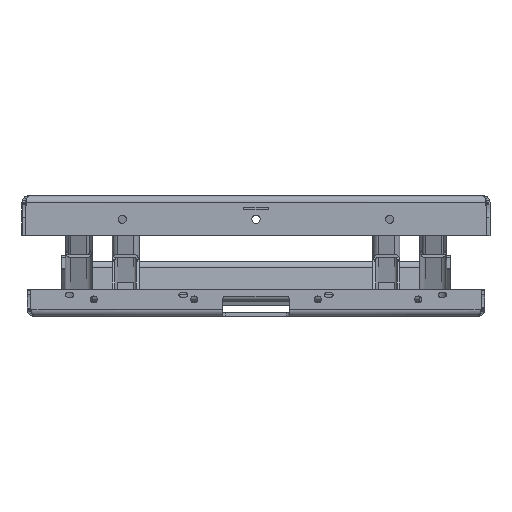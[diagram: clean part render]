
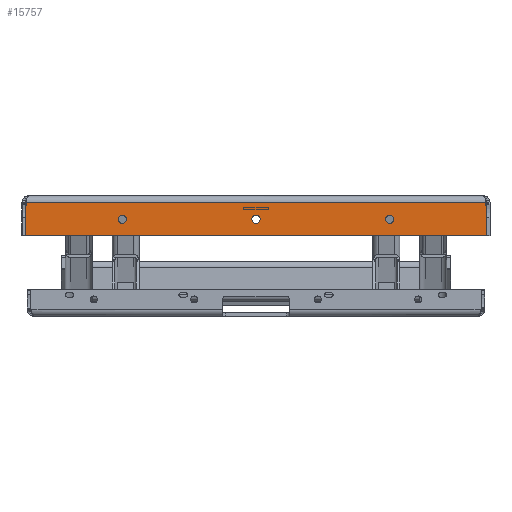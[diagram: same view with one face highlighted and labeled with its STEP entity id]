
A CAD part, left-side view. The second image highlights one B-rep face of the part: STEP entity #15757.
In plain terms, the highlighted planar face has unit normal (-1, 0, 0) as drawn and (1, 0, 0) by its records, which use the part's own axes.
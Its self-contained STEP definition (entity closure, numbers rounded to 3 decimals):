
#944=FACE_BOUND('',#3364,.T.);
#945=FACE_BOUND('',#3365,.T.);
#946=FACE_BOUND('',#3366,.T.);
#1500=CIRCLE('',#17190,6.25);
#1504=CIRCLE('',#17196,6.25);
#1508=CIRCLE('',#17202,6.25);
#1557=CIRCLE('',#17297,1.);
#1559=CIRCLE('',#17301,1.);
#1560=CIRCLE('',#17302,1.);
#1561=CIRCLE('',#17303,1.);
#2315=FACE_OUTER_BOUND('',#3363,.T.);
#3363=EDGE_LOOP('',(#13880,#13881,#13882,#13883,#13884,#13885,#13886,#13887,
#13888,#13889));
#3364=EDGE_LOOP('',(#13890));
#3365=EDGE_LOOP('',(#13891));
#3366=EDGE_LOOP('',(#13892));
#4759=LINE('',#26754,#6190);
#4762=LINE('',#26760,#6193);
#4763=LINE('',#26764,#6194);
#4764=LINE('',#26766,#6195);
#4765=LINE('',#26768,#6196);
#4766=LINE('',#26772,#6197);
#6190=VECTOR('',#21293,10.);
#6193=VECTOR('',#21298,10.);
#6194=VECTOR('',#21301,10.);
#6195=VECTOR('',#21302,10.);
#6196=VECTOR('',#21303,10.);
#6197=VECTOR('',#21306,10.);
#7581=VERTEX_POINT('',#26259);
#7585=VERTEX_POINT('',#26269);
#7589=VERTEX_POINT('',#26279);
#7685=VERTEX_POINT('',#26744);
#7686=VERTEX_POINT('',#26745);
#7689=VERTEX_POINT('',#26753);
#7691=VERTEX_POINT('',#26759);
#7692=VERTEX_POINT('',#26761);
#7693=VERTEX_POINT('',#26763);
#7694=VERTEX_POINT('',#26765);
#7695=VERTEX_POINT('',#26767);
#7696=VERTEX_POINT('',#26769);
#7697=VERTEX_POINT('',#26771);
#9655=EDGE_CURVE('',#7581,#7581,#1500,.T.);
#9659=EDGE_CURVE('',#7585,#7585,#1504,.T.);
#9663=EDGE_CURVE('',#7589,#7589,#1508,.T.);
#9808=EDGE_CURVE('',#7685,#7686,#1557,.T.);
#9812=EDGE_CURVE('',#7686,#7689,#4759,.T.);
#9815=EDGE_CURVE('',#7691,#7685,#4762,.T.);
#9816=EDGE_CURVE('',#7692,#7691,#1559,.T.);
#9817=EDGE_CURVE('',#7692,#7693,#4763,.T.);
#9818=EDGE_CURVE('',#7693,#7694,#4764,.T.);
#9819=EDGE_CURVE('',#7694,#7695,#4765,.T.);
#9820=EDGE_CURVE('',#7696,#7695,#1560,.T.);
#9821=EDGE_CURVE('',#7697,#7696,#4766,.T.);
#9822=EDGE_CURVE('',#7689,#7697,#1561,.T.);
#13880=ORIENTED_EDGE('',*,*,#9808,.F.);
#13881=ORIENTED_EDGE('',*,*,#9815,.F.);
#13882=ORIENTED_EDGE('',*,*,#9816,.F.);
#13883=ORIENTED_EDGE('',*,*,#9817,.T.);
#13884=ORIENTED_EDGE('',*,*,#9818,.T.);
#13885=ORIENTED_EDGE('',*,*,#9819,.T.);
#13886=ORIENTED_EDGE('',*,*,#9820,.F.);
#13887=ORIENTED_EDGE('',*,*,#9821,.F.);
#13888=ORIENTED_EDGE('',*,*,#9822,.F.);
#13889=ORIENTED_EDGE('',*,*,#9812,.F.);
#13890=ORIENTED_EDGE('',*,*,#9655,.T.);
#13891=ORIENTED_EDGE('',*,*,#9659,.T.);
#13892=ORIENTED_EDGE('',*,*,#9663,.T.);
#15021=PLANE('',#17300);
#15757=ADVANCED_FACE('',(#2315,#944,#945,#946),#15021,.F.);
#17190=AXIS2_PLACEMENT_3D('',#26260,#20995,#20996);
#17196=AXIS2_PLACEMENT_3D('',#26270,#21007,#21008);
#17202=AXIS2_PLACEMENT_3D('',#26280,#21019,#21020);
#17297=AXIS2_PLACEMENT_3D('',#26746,#21285,#21286);
#17300=AXIS2_PLACEMENT_3D('',#26758,#21296,#21297);
#17301=AXIS2_PLACEMENT_3D('',#26762,#21299,#21300);
#17302=AXIS2_PLACEMENT_3D('',#26770,#21304,#21305);
#17303=AXIS2_PLACEMENT_3D('',#26773,#21307,#21308);
#20995=DIRECTION('center_axis',(-1.,0.,0.));
#20996=DIRECTION('ref_axis',(0.,0.,1.));
#21007=DIRECTION('center_axis',(-1.,0.,0.));
#21008=DIRECTION('ref_axis',(0.,0.,1.));
#21019=DIRECTION('center_axis',(-1.,0.,0.));
#21020=DIRECTION('ref_axis',(0.,0.,1.));
#21285=DIRECTION('center_axis',(-1.,0.,0.));
#21286=DIRECTION('ref_axis',(0.,-0.707,0.707));
#21293=DIRECTION('',(0.,1.,0.));
#21296=DIRECTION('center_axis',(-1.,0.,0.));
#21297=DIRECTION('ref_axis',(0.,0.,1.));
#21298=DIRECTION('',(0.,0.,1.));
#21299=DIRECTION('center_axis',(-1.,0.,0.));
#21300=DIRECTION('ref_axis',(0.,-1.,-0.029));
#21301=DIRECTION('',(0.,0.057,-0.998));
#21302=DIRECTION('',(0.,1.,0.));
#21303=DIRECTION('',(0.,0.057,0.998));
#21304=DIRECTION('center_axis',(-1.,0.,0.));
#21305=DIRECTION('ref_axis',(0.,1.,-0.029));
#21306=DIRECTION('',(0.,0.,-1.));
#21307=DIRECTION('center_axis',(-1.,0.,0.));
#21308=DIRECTION('ref_axis',(0.,0.707,0.707));
#26259=CARTESIAN_POINT('',(650.,0.,28.75));
#26260=CARTESIAN_POINT('Origin',(650.,0.,35.));
#26269=CARTESIAN_POINT('',(650.,200.,28.75));
#26270=CARTESIAN_POINT('Origin',(650.,200.,35.));
#26279=CARTESIAN_POINT('',(650.,-200.,28.75));
#26280=CARTESIAN_POINT('Origin',(650.,-200.,35.));
#26744=CARTESIAN_POINT('',(650.,-344.5,59.));
#26745=CARTESIAN_POINT('',(650.,-343.5,60.));
#26746=CARTESIAN_POINT('Origin',(650.,-343.5,59.));
#26753=CARTESIAN_POINT('',(650.,343.5,60.));
#26754=CARTESIAN_POINT('',(650.,-344.5,60.));
#26758=CARTESIAN_POINT('Origin',(650.,0.,30.045));
#26759=CARTESIAN_POINT('',(650.,-344.5,24.618));
#26760=CARTESIAN_POINT('',(650.,-344.5,10.));
#26761=CARTESIAN_POINT('',(650.,-344.498,24.561));
#26762=CARTESIAN_POINT('Origin',(650.,-343.5,24.618));
#26763=CARTESIAN_POINT('',(650.,-343.666,10.));
#26764=CARTESIAN_POINT('',(650.,-344.095,17.498));
#26765=CARTESIAN_POINT('',(650.,343.666,10.));
#26766=CARTESIAN_POINT('',(650.,0.,10.));
#26767=CARTESIAN_POINT('',(650.,344.498,24.561));
#26768=CARTESIAN_POINT('',(650.,344.095,17.498));
#26769=CARTESIAN_POINT('',(650.,344.5,24.618));
#26770=CARTESIAN_POINT('Origin',(650.,343.5,24.618));
#26771=CARTESIAN_POINT('',(650.,344.5,59.));
#26772=CARTESIAN_POINT('',(650.,344.5,10.));
#26773=CARTESIAN_POINT('Origin',(650.,343.5,59.));
